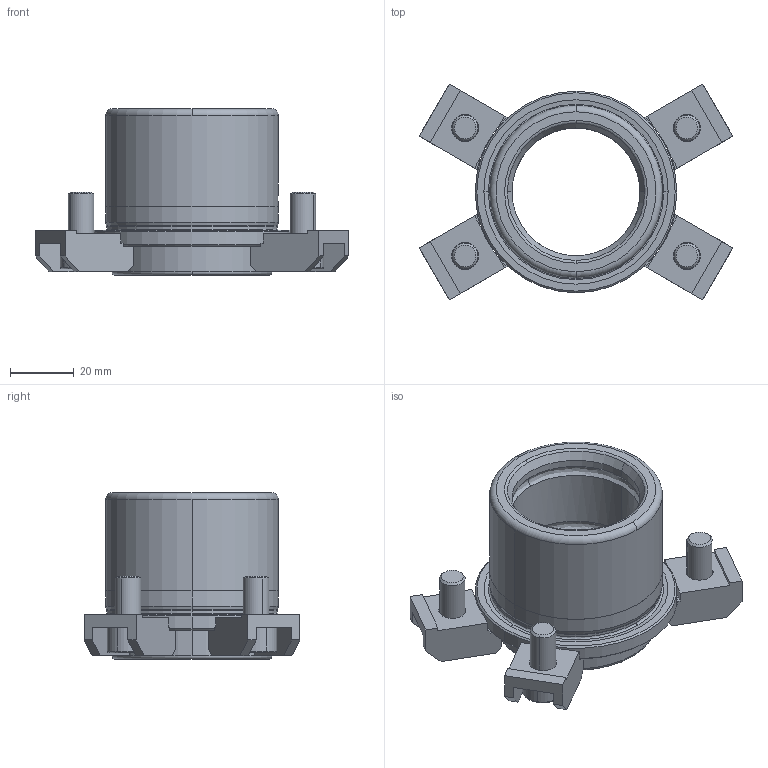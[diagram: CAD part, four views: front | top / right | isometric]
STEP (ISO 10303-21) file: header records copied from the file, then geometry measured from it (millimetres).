
FILE_DESCRIPTION((''),'2;1');
FILE_NAME('B12_040_014.stp','2008-11-04T13:50:30',(''),(''),'Mechanical Desktop 2009','Mechanical Desktop 2009',', , ');
FILE_SCHEMA(('CONFIG_CONTROL_DESIGN'));
Length unit declared in the file: millimetre
Products named in the file (2): Product; blmdl1
Assembly tree (1 placements, depth 2):
  Product
    blmdl1
Bounding box: 98.08 x 67.48 x 52 mm (x, y, z)
Volume: 68747.1 mm3; surface area: 30873.9 mm2
Topology: 9 solids, 9 shells, 244 faces, 634 edges, 417 vertices
Faces by surface type: plane 137, cylinder 56, cone 18, bspline 17, torus 16
Entity records: 8618 total; most frequent: CARTESIAN_POINT 2364, DIRECTION 1320, ORIENTED_EDGE 1268, EDGE_CURVE 634, AXIS2_PLACEMENT_3D 465, VERTEX_POINT 417, VECTOR 390, LINE 390
